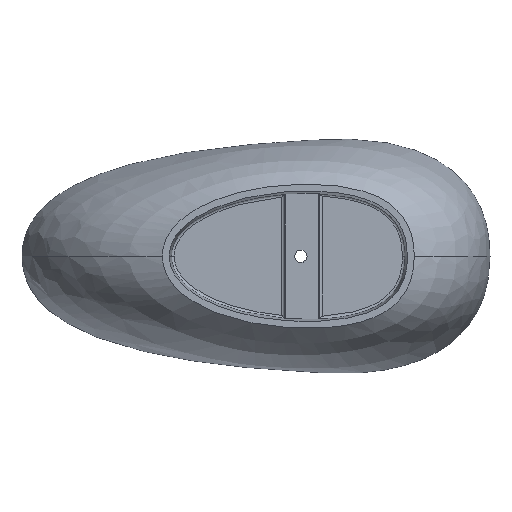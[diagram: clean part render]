
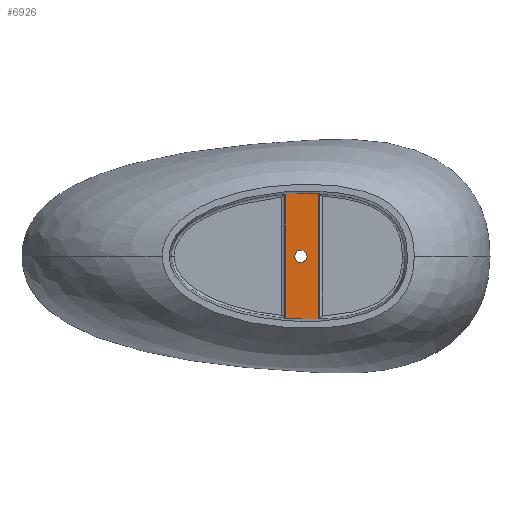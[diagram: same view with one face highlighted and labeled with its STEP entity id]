
A CAD part, front view. The second image highlights one B-rep face of the part: STEP entity #6926.
In plain terms, the highlighted planar face has unit normal (0, -1, 0).
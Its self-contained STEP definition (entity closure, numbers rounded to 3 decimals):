
#174 = CARTESIAN_POINT ( 'NONE',  ( 225.984, -466., -229.084 ) ) ;
#280 = ORIENTED_EDGE ( 'NONE', *, *, #5055, .T. ) ;
#340 = CARTESIAN_POINT ( 'NONE',  ( 163.052, -466., 0. ) ) ;
#405 = CARTESIAN_POINT ( 'NONE',  ( 225.984, -466., -229.084 ) ) ;
#456 = B_SPLINE_CURVE_WITH_KNOTS ( 'NONE', 3,
 ( #1949, #5402, #6444, #3246, #6970, #3803, #496, #4349 ),
 .UNSPECIFIED., .F., .F.,
 ( 4, 2, 2, 4 ),
 ( 0.004, 0.03, 0.097, 0.122 ),
 .UNSPECIFIED. ) ;
#496 = CARTESIAN_POINT ( 'NONE',  ( 115.926, -466., 227.517 ) ) ;
#783 = CARTESIAN_POINT ( 'NONE',  ( 225.984, -466., 229.083 ) ) ;
#803 = ORIENTED_EDGE ( 'NONE', *, *, #6443, .T. ) ;
#814 = VECTOR ( 'NONE', #2494, 1000. ) ;
#829 = DIRECTION ( 'NONE',  ( 0., 1., 0. ) ) ;
#857 = EDGE_CURVE ( 'NONE', #1432, #1873, #2394, .T. ) ;
#907 = DIRECTION ( 'NONE',  ( 0., 0., 1. ) ) ;
#967 = CARTESIAN_POINT ( 'NONE',  ( 163.052, -466., -22.5 ) ) ;
#990 = VERTEX_POINT ( 'NONE', #174 ) ;
#1166 = LINE ( 'NONE', #5155, #5243 ) ;
#1319 = FACE_OUTER_BOUND ( 'NONE', #4671, .T. ) ;
#1330 = DIRECTION ( 'NONE',  ( 0., 0., 1. ) ) ;
#1432 = VERTEX_POINT ( 'NONE', #3205 ) ;
#1433 = EDGE_CURVE ( 'NONE', #2917, #2226, #6096, .T. ) ;
#1873 = VERTEX_POINT ( 'NONE', #3749 ) ;
#1949 = CARTESIAN_POINT ( 'NONE',  ( 225.984, -466., 229.083 ) ) ;
#2041 = CARTESIAN_POINT ( 'NONE',  ( 107.718, -466., -226.876 ) ) ;
#2143 = ORIENTED_EDGE ( 'NONE', *, *, #2868, .T. ) ;
#2226 = VERTEX_POINT ( 'NONE', #6288 ) ;
#2394 = LINE ( 'NONE', #2572, #814 ) ;
#2437 = FACE_BOUND ( 'NONE', #2543, .T. ) ;
#2494 = DIRECTION ( 'NONE',  ( 0., 0., -1. ) ) ;
#2543 = EDGE_LOOP ( 'NONE', ( #280, #3859 ) ) ;
#2572 = CARTESIAN_POINT ( 'NONE',  ( 107.718, -466., 246.382 ) ) ;
#2615 = CARTESIAN_POINT ( 'NONE',  ( 124.373, -466., -228.073 ) ) ;
#2787 = AXIS2_PLACEMENT_3D ( 'NONE', #5308, #3335, #3284 ) ;
#2868 = EDGE_CURVE ( 'NONE', #1873, #990, #6244, .T. ) ;
#2917 = VERTEX_POINT ( 'NONE', #967 ) ;
#3026 = PLANE ( 'NONE',  #4681 ) ;
#3161 = CARTESIAN_POINT ( 'NONE',  ( 177.891, -466., -230.176 ) ) ;
#3205 = CARTESIAN_POINT ( 'NONE',  ( 107.718, -466., 226.876 ) ) ;
#3246 = CARTESIAN_POINT ( 'NONE',  ( 177.233, -466., 230.172 ) ) ;
#3284 = DIRECTION ( 'NONE',  ( 0., 0., 1. ) ) ;
#3335 = DIRECTION ( 'NONE',  ( 0., 1., 0. ) ) ;
#3367 = AXIS2_PLACEMENT_3D ( 'NONE', #340, #4200, #907 ) ;
#3716 = CARTESIAN_POINT ( 'NONE',  ( 217.47, -466., -229.449 ) ) ;
#3749 = CARTESIAN_POINT ( 'NONE',  ( 107.718, -466., -226.876 ) ) ;
#3803 = CARTESIAN_POINT ( 'NONE',  ( 124.15, -466., 228.058 ) ) ;
#3859 = ORIENTED_EDGE ( 'NONE', *, *, #1433, .T. ) ;
#4200 = DIRECTION ( 'NONE',  ( 0., 1., 0. ) ) ;
#4234 = CARTESIAN_POINT ( 'NONE',  ( 116.037, -466., -227.525 ) ) ;
#4249 = VERTEX_POINT ( 'NONE', #783 ) ;
#4349 = CARTESIAN_POINT ( 'NONE',  ( 107.718, -466., 226.876 ) ) ;
#4444 = ORIENTED_EDGE ( 'NONE', *, *, #857, .T. ) ;
#4452 = CIRCLE ( 'NONE', #3367, 22.5 ) ;
#4671 = EDGE_LOOP ( 'NONE', ( #2143, #803, #5030, #4444 ) ) ;
#4673 = DIRECTION ( 'NONE',  ( 0., 0., 1. ) ) ;
#4681 = AXIS2_PLACEMENT_3D ( 'NONE', #5721, #829, #4673 ) ;
#5030 = ORIENTED_EDGE ( 'NONE', *, *, #6986, .T. ) ;
#5055 = EDGE_CURVE ( 'NONE', #2226, #2917, #4452, .T. ) ;
#5155 = CARTESIAN_POINT ( 'NONE',  ( 225.984, -466., 246.382 ) ) ;
#5243 = VECTOR ( 'NONE', #1330, 1000. ) ;
#5308 = CARTESIAN_POINT ( 'NONE',  ( 163.052, -466., 0. ) ) ;
#5402 = CARTESIAN_POINT ( 'NONE',  ( 217.271, -466., 229.457 ) ) ;
#5721 = CARTESIAN_POINT ( 'NONE',  ( 229.984, -466., 246.382 ) ) ;
#6096 = CIRCLE ( 'NONE', #2787, 22.5 ) ;
#6244 = B_SPLINE_CURVE_WITH_KNOTS ( 'NONE', 3,
 ( #2041, #4234, #2615, #6361, #3161, #6889, #3716, #405 ),
 .UNSPECIFIED., .F., .F.,
 ( 4, 2, 2, 4 ),
 ( 0.004, 0.029, 0.097, 0.122 ),
 .UNSPECIFIED. ) ;
#6288 = CARTESIAN_POINT ( 'NONE',  ( 163.052, -466., 22.5 ) ) ;
#6361 = CARTESIAN_POINT ( 'NONE',  ( 155.244, -466., -229.724 ) ) ;
#6443 = EDGE_CURVE ( 'NONE', #990, #4249, #1166, .T. ) ;
#6444 = CARTESIAN_POINT ( 'NONE',  ( 208.547, -466., 229.706 ) ) ;
#6889 = CARTESIAN_POINT ( 'NONE',  ( 208.946, -466., -229.694 ) ) ;
#6926 = ADVANCED_FACE ( 'NONE', ( #2437, #1319 ), #3026, .F. ) ;
#6970 = CARTESIAN_POINT ( 'NONE',  ( 154.757, -466., 229.706 ) ) ;
#6986 = EDGE_CURVE ( 'NONE', #4249, #1432, #456, .T. ) ;
